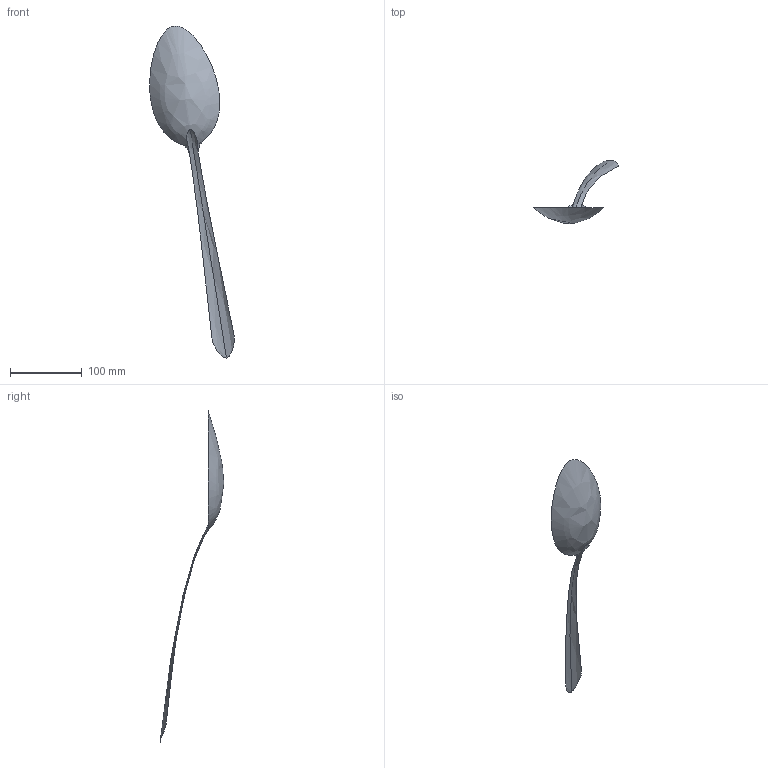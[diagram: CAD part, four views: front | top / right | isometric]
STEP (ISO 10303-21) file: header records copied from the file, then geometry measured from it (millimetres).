
FILE_DESCRIPTION (( 'STEP AP214' ), '1' );
FILE_NAME ('spoon.STEP', '2015-03-04T18:54:28', ( '' ), ( '' ), 'SwSTEP 2.0', 'SolidWorks 2014', '' );
FILE_SCHEMA (( 'AUTOMOTIVE_DESIGN' ));
Length unit declared in the file: millimetre
Products named in the file (1): spoon
Bounding box: 118.62 x 88.9 x 464.36 mm (x, y, z)
Surface area: 20781.6 mm2 (no closed solid volume)
Topology: 0 solids, 1 shells, 5 faces, 17 edges, 13 vertices
Faces by surface type: bspline 5
Entity records: 3827 total; most frequent: CARTESIAN_POINT 3706, ORIENTED_EDGE 24, EDGE_CURVE 17, B_SPLINE_CURVE_WITH_KNOTS 17, VERTEX_POINT 13, EDGE_LOOP 5, FACE_OUTER_BOUND 5, B_SPLINE_SURFACE_WITH_KNOTS 5
